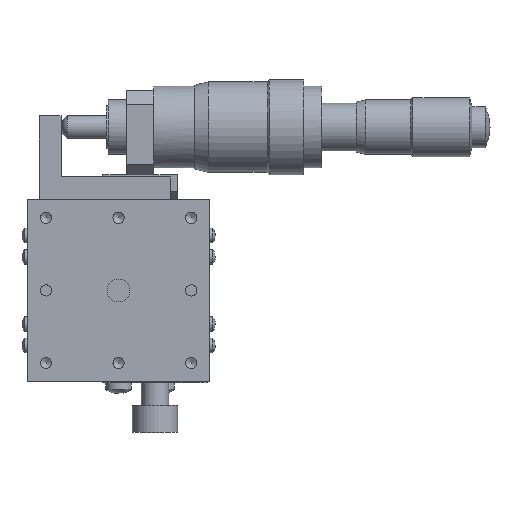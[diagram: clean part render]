
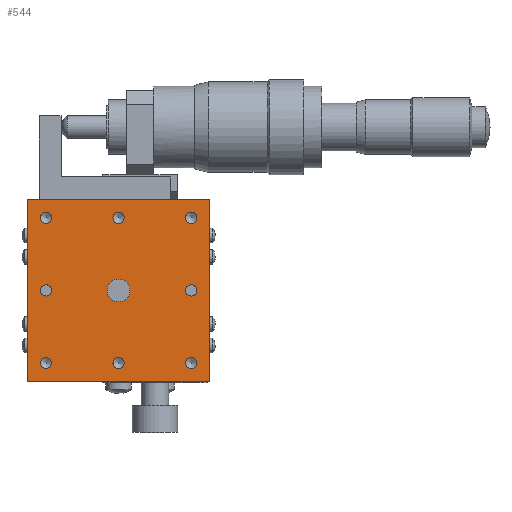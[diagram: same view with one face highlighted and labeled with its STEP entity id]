
A CAD part, top view. The second image highlights one B-rep face of the part: STEP entity #544.
In plain terms, the highlighted planar face has unit normal (0, 0, 1).
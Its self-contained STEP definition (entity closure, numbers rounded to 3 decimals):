
#544 = ADVANCED_FACE( '', ( #1176, #1177, #1178, #1179, #1180, #1181, #1182, #1183, #1184, #1185 ), #1186, .T. );
#1176 = FACE_BOUND( '', #1817, .T. );
#1177 = FACE_BOUND( '', #1818, .T. );
#1178 = FACE_BOUND( '', #1819, .T. );
#1179 = FACE_BOUND( '', #1820, .T. );
#1180 = FACE_BOUND( '', #1821, .T. );
#1181 = FACE_BOUND( '', #1822, .T. );
#1182 = FACE_BOUND( '', #1823, .T. );
#1183 = FACE_BOUND( '', #1824, .T. );
#1184 = FACE_OUTER_BOUND( '', #1825, .T. );
#1185 = FACE_BOUND( '', #1826, .T. );
#1186 = PLANE( '', #1827 );
#1817 = EDGE_LOOP( '', ( #3122 ) );
#1818 = EDGE_LOOP( '', ( #3123 ) );
#1819 = EDGE_LOOP( '', ( #3124 ) );
#1820 = EDGE_LOOP( '', ( #3125 ) );
#1821 = EDGE_LOOP( '', ( #3126 ) );
#1822 = EDGE_LOOP( '', ( #3127 ) );
#1823 = EDGE_LOOP( '', ( #3128 ) );
#1824 = EDGE_LOOP( '', ( #3129 ) );
#1825 = EDGE_LOOP( '', ( #3130, #3131, #3132, #3133 ) );
#1826 = EDGE_LOOP( '', ( #3134 ) );
#1827 = AXIS2_PLACEMENT_3D( '', #3135, #3136, #3137 );
#3122 = ORIENTED_EDGE( '', *, *, #3260, .T. );
#3123 = ORIENTED_EDGE( '', *, *, #3299, .T. );
#3124 = ORIENTED_EDGE( '', *, *, #3649, .T. );
#3125 = ORIENTED_EDGE( '', *, *, #3532, .T. );
#3126 = ORIENTED_EDGE( '', *, *, #3645, .T. );
#3127 = ORIENTED_EDGE( '', *, *, #3219, .T. );
#3128 = ORIENTED_EDGE( '', *, *, #3538, .T. );
#3129 = ORIENTED_EDGE( '', *, *, #3589, .T. );
#3130 = ORIENTED_EDGE( '', *, *, #3372, .F. );
#3131 = ORIENTED_EDGE( '', *, *, #3205, .F. );
#3132 = ORIENTED_EDGE( '', *, *, #3618, .F. );
#3133 = ORIENTED_EDGE( '', *, *, #3255, .F. );
#3134 = ORIENTED_EDGE( '', *, *, #3171, .F. );
#3135 = CARTESIAN_POINT( '', ( 0., 0., 20. ) );
#3136 = DIRECTION( '', ( 0., 0., 1. ) );
#3137 = DIRECTION( '', ( 1., 0., 0. ) );
#3171 = EDGE_CURVE( '', #3671, #3671, #3672, .T. );
#3205 = EDGE_CURVE( '', #3727, #3729, #3730, .T. );
#3219 = EDGE_CURVE( '', #3755, #3755, #3756, .T. );
#3255 = EDGE_CURVE( '', #3815, #3795, #3817, .T. );
#3260 = EDGE_CURVE( '', #3824, #3824, #3825, .T. );
#3299 = EDGE_CURVE( '', #3892, #3892, #3893, .T. );
#3372 = EDGE_CURVE( '', #3729, #3815, #4004, .T. );
#3532 = EDGE_CURVE( '', #4235, #4235, #4236, .T. );
#3538 = EDGE_CURVE( '', #4243, #4243, #4244, .T. );
#3589 = EDGE_CURVE( '', #4304, #4304, #4305, .T. );
#3618 = EDGE_CURVE( '', #3795, #3727, #4340, .T. );
#3645 = EDGE_CURVE( '', #4371, #4371, #4372, .T. );
#3649 = EDGE_CURVE( '', #4376, #4376, #4377, .T. );
#3671 = VERTEX_POINT( '', #4403 );
#3672 = CIRCLE( '', #4404, 2.5 );
#3727 = VERTEX_POINT( '', #4471 );
#3729 = VERTEX_POINT( '', #4474 );
#3730 = LINE( '', #4475, #4476 );
#3755 = VERTEX_POINT( '', #4510 );
#3756 = CIRCLE( '', #4511, 1.25 );
#3795 = VERTEX_POINT( '', #4561 );
#3815 = VERTEX_POINT( '', #4591 );
#3817 = LINE( '', #4594, #4595 );
#3824 = VERTEX_POINT( '', #4602 );
#3825 = CIRCLE( '', #4603, 1.25 );
#3892 = VERTEX_POINT( '', #4691 );
#3893 = CIRCLE( '', #4692, 1.25 );
#4004 = LINE( '', #4834, #4835 );
#4235 = VERTEX_POINT( '', #5135 );
#4236 = CIRCLE( '', #5136, 1.25 );
#4243 = VERTEX_POINT( '', #5144 );
#4244 = CIRCLE( '', #5145, 1.25 );
#4304 = VERTEX_POINT( '', #5226 );
#4305 = CIRCLE( '', #5227, 1.25 );
#4340 = LINE( '', #5268, #5269 );
#4371 = VERTEX_POINT( '', #5307 );
#4372 = CIRCLE( '', #5308, 1.25 );
#4376 = VERTEX_POINT( '', #5312 );
#4377 = CIRCLE( '', #5313, 1.25 );
#4403 = CARTESIAN_POINT( '', ( 0., 2.5, 20. ) );
#4404 = AXIS2_PLACEMENT_3D( '', #5330, #5331, #5332 );
#4471 = CARTESIAN_POINT( '', ( 20., 20., 20. ) );
#4474 = CARTESIAN_POINT( '', ( 20., -20., 20. ) );
#4475 = CARTESIAN_POINT( '', ( 20., 0., 20. ) );
#4476 = VECTOR( '', #5376, 1000. );
#4510 = CARTESIAN_POINT( '', ( 16., -17.25, 20. ) );
#4511 = AXIS2_PLACEMENT_3D( '', #5395, #5396, #5397 );
#4561 = CARTESIAN_POINT( '', ( -20., 20., 20. ) );
#4591 = CARTESIAN_POINT( '', ( -20., -20., 20. ) );
#4594 = CARTESIAN_POINT( '', ( -20., 0., 20. ) );
#4595 = VECTOR( '', #5435, 1000. );
#4602 = CARTESIAN_POINT( '', ( -16., -1.25, 20. ) );
#4603 = AXIS2_PLACEMENT_3D( '', #5442, #5443, #5444 );
#4691 = CARTESIAN_POINT( '', ( -16., 14.75, 20. ) );
#4692 = AXIS2_PLACEMENT_3D( '', #5487, #5488, #5489 );
#4834 = CARTESIAN_POINT( '', ( 0., -20., 20. ) );
#4835 = VECTOR( '', #5584, 1000. );
#5135 = CARTESIAN_POINT( '', ( 16., 14.75, 20. ) );
#5136 = AXIS2_PLACEMENT_3D( '', #5762, #5763, #5764 );
#5144 = CARTESIAN_POINT( '', ( 0., -17.25, 20. ) );
#5145 = AXIS2_PLACEMENT_3D( '', #5769, #5770, #5771 );
#5226 = CARTESIAN_POINT( '', ( -16., -17.25, 20. ) );
#5227 = AXIS2_PLACEMENT_3D( '', #5808, #5809, #5810 );
#5268 = CARTESIAN_POINT( '', ( 0., 20., 20. ) );
#5269 = VECTOR( '', #5832, 1000. );
#5307 = CARTESIAN_POINT( '', ( 16., -1.25, 20. ) );
#5308 = AXIS2_PLACEMENT_3D( '', #5846, #5847, #5848 );
#5312 = CARTESIAN_POINT( '', ( 0., 14.75, 20. ) );
#5313 = AXIS2_PLACEMENT_3D( '', #5849, #5850, #5851 );
#5330 = CARTESIAN_POINT( '', ( 0., 0., 20. ) );
#5331 = DIRECTION( '', ( 0., 0., 1. ) );
#5332 = DIRECTION( '', ( 0., 1., 0. ) );
#5376 = DIRECTION( '', ( 0., -1., 0. ) );
#5395 = CARTESIAN_POINT( '', ( 16., -16., 20. ) );
#5396 = DIRECTION( '', ( 0., 0., -1. ) );
#5397 = DIRECTION( '', ( 0., -1., 0. ) );
#5435 = DIRECTION( '', ( 0., 1., 0. ) );
#5442 = CARTESIAN_POINT( '', ( -16., 0., 20. ) );
#5443 = DIRECTION( '', ( 0., 0., -1. ) );
#5444 = DIRECTION( '', ( 0., -1., 0. ) );
#5487 = CARTESIAN_POINT( '', ( -16., 16., 20. ) );
#5488 = DIRECTION( '', ( 0., 0., -1. ) );
#5489 = DIRECTION( '', ( 0., -1., 0. ) );
#5584 = DIRECTION( '', ( -1., 0., 0. ) );
#5762 = CARTESIAN_POINT( '', ( 16., 16., 20. ) );
#5763 = DIRECTION( '', ( 0., 0., -1. ) );
#5764 = DIRECTION( '', ( 0., -1., 0. ) );
#5769 = CARTESIAN_POINT( '', ( 0., -16., 20. ) );
#5770 = DIRECTION( '', ( 0., 0., -1. ) );
#5771 = DIRECTION( '', ( 0., -1., 0. ) );
#5808 = CARTESIAN_POINT( '', ( -16., -16., 20. ) );
#5809 = DIRECTION( '', ( 0., 0., -1. ) );
#5810 = DIRECTION( '', ( 0., -1., 0. ) );
#5832 = DIRECTION( '', ( 1., 0., 0. ) );
#5846 = CARTESIAN_POINT( '', ( 16., 0., 20. ) );
#5847 = DIRECTION( '', ( 0., 0., -1. ) );
#5848 = DIRECTION( '', ( 0., -1., 0. ) );
#5849 = CARTESIAN_POINT( '', ( 0., 16., 20. ) );
#5850 = DIRECTION( '', ( 0., 0., -1. ) );
#5851 = DIRECTION( '', ( 0., -1., 0. ) );
